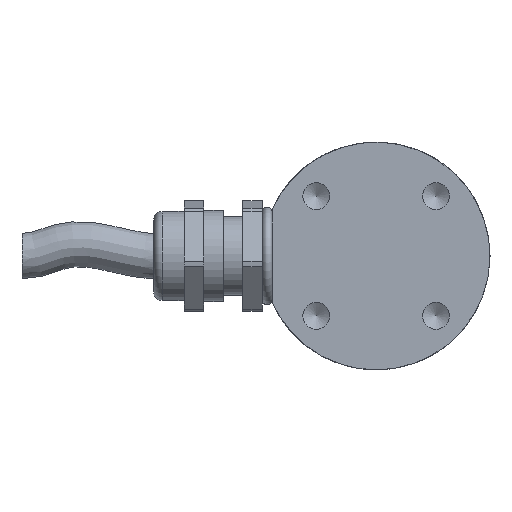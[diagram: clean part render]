
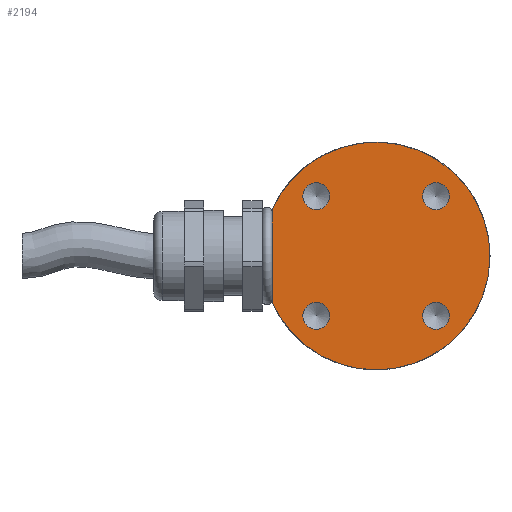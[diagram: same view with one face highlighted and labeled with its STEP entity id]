
A CAD part, left-side view. The second image highlights one B-rep face of the part: STEP entity #2194.
In plain terms, the highlighted planar face has unit normal (-1, 0, 0).
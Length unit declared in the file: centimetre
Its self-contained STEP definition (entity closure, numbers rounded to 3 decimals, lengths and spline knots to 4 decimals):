
#633=VECTOR('',#2492,1.);
#640=VECTOR('',#2503,1.);
#641=VECTOR('',#2507,1.);
#747=LINE('',#3044,#633);
#754=LINE('',#3060,#640);
#755=LINE('',#3064,#641);
#870=PLANE('',#2318);
#997=VERTEX_POINT('',#3018);
#1000=VERTEX_POINT('',#3025);
#1003=VERTEX_POINT('',#3032);
#1006=VERTEX_POINT('',#3039);
#1007=VERTEX_POINT('',#3042);
#1009=VERTEX_POINT('',#3045);
#1013=VERTEX_POINT('',#3057);
#1014=VERTEX_POINT('',#3059);
#1156=CIRCLE('',#2299,0.2067);
#1158=CIRCLE('',#2303,0.2067);
#1160=CIRCLE('',#2307,0.2067);
#1162=CIRCLE('',#2311,0.2067);
#1165=CIRCLE('',#2319,1.75);
#1225=EDGE_CURVE('',#997,#997,#1156,.T.);
#1227=EDGE_CURVE('',#1000,#1000,#1158,.T.);
#1229=EDGE_CURVE('',#1003,#1003,#1160,.T.);
#1231=EDGE_CURVE('',#1006,#1006,#1162,.T.);
#1233=EDGE_CURVE('',#1009,#1007,#747,.T.);
#1241=EDGE_CURVE('',#1013,#1014,#754,.T.);
#1243=EDGE_CURVE('',#1014,#1009,#755,.T.);
#1244=EDGE_CURVE('',#1013,#1007,#1165,.T.);
#1491=ORIENTED_EDGE('',*,*,#1225,.T.);
#1492=ORIENTED_EDGE('',*,*,#1227,.T.);
#1493=ORIENTED_EDGE('',*,*,#1229,.T.);
#1494=ORIENTED_EDGE('',*,*,#1231,.T.);
#1495=ORIENTED_EDGE('',*,*,#1241,.T.);
#1496=ORIENTED_EDGE('',*,*,#1243,.T.);
#1497=ORIENTED_EDGE('',*,*,#1233,.T.);
#1498=ORIENTED_EDGE('',*,*,#1244,.F.);
#1932=EDGE_LOOP('',(#1491));
#1933=EDGE_LOOP('',(#1492));
#1934=EDGE_LOOP('',(#1493));
#1935=EDGE_LOOP('',(#1494));
#1936=EDGE_LOOP('',(#1495,#1496,#1497,#1498));
#2069=FACE_BOUND('',#1932,.T.);
#2070=FACE_BOUND('',#1933,.T.);
#2071=FACE_BOUND('',#1934,.T.);
#2072=FACE_BOUND('',#1935,.T.);
#2073=FACE_BOUND('',#1936,.T.);
#2194=ADVANCED_FACE('',(#2069,#2070,#2071,#2072,#2073),#870,.T.);
#2299=AXIS2_PLACEMENT_3D('',#3017,#2464,#2465);
#2303=AXIS2_PLACEMENT_3D('',#3024,#2472,#2473);
#2307=AXIS2_PLACEMENT_3D('',#3031,#2480,#2481);
#2311=AXIS2_PLACEMENT_3D('',#3038,#2488,#2489);
#2318=AXIS2_PLACEMENT_3D('',#3065,#2508,$);
#2319=AXIS2_PLACEMENT_3D('',#3066,#2509,#2510);
#2464=DIRECTION('',(1.,0.,0.));
#2465=DIRECTION('',(0.,0.,0.207));
#2472=DIRECTION('',(1.,0.,0.));
#2473=DIRECTION('',(0.,0.,0.207));
#2480=DIRECTION('',(1.,0.,0.));
#2481=DIRECTION('',(0.,0.,0.207));
#2488=DIRECTION('',(1.,0.,0.));
#2489=DIRECTION('',(0.,0.,0.207));
#2492=DIRECTION('',(0.,1.,0.));
#2503=DIRECTION('',(0.,-1.,0.));
#2507=DIRECTION('',(0.,0.,-1.));
#2508=DIRECTION('',(-1.,0.,0.));
#2509=DIRECTION('',(1.,0.,0.));
#2510=DIRECTION('',(0.,0.,-1.75));
#3017=CARTESIAN_POINT('',(0.,0.9192,0.9192));
#3018=CARTESIAN_POINT('',(0.,0.9192,1.1259));
#3024=CARTESIAN_POINT('',(0.,0.9192,-0.9192));
#3025=CARTESIAN_POINT('',(0.,0.9192,-0.7125));
#3031=CARTESIAN_POINT('',(0.,-0.9192,-0.9192));
#3032=CARTESIAN_POINT('',(0.,-0.9192,-0.7125));
#3038=CARTESIAN_POINT('',(0.,-0.9192,0.9192));
#3039=CARTESIAN_POINT('',(0.,-0.9192,1.1259));
#3042=CARTESIAN_POINT('',(0.,1.6085,-0.6894));
#3044=CARTESIAN_POINT('',(0.,0.8,-0.6894));
#3045=CARTESIAN_POINT('',(0.,1.6,-0.6894));
#3057=CARTESIAN_POINT('',(0.,1.6067,0.6936));
#3059=CARTESIAN_POINT('',(0.,1.6,0.6936));
#3060=CARTESIAN_POINT('',(0.,0.8,0.6936));
#3064=CARTESIAN_POINT('',(0.,1.6,-0.4364));
#3065=CARTESIAN_POINT('',(0.,0.,-0.875));
#3066=CARTESIAN_POINT('',(0.,0.,0.));
